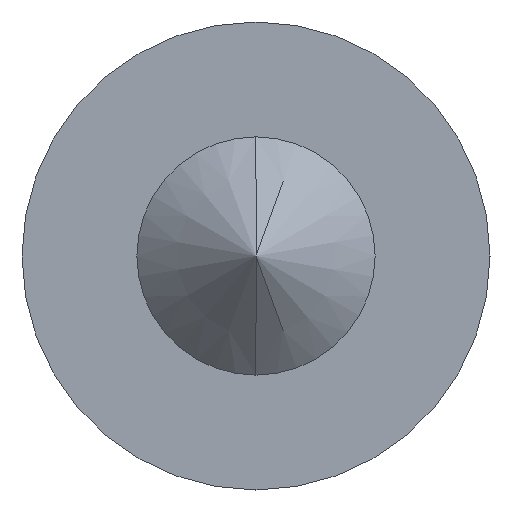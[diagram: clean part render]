
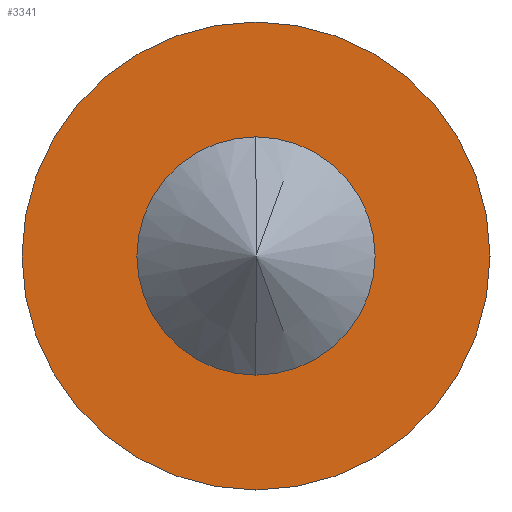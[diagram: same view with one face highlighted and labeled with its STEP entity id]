
A CAD part, left-side view. The second image highlights one B-rep face of the part: STEP entity #3341.
In plain terms, the highlighted planar face has unit normal (-1, 0, 0).
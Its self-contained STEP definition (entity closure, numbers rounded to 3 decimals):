
#348 = CIRCLE ( 'NONE', #3006, 1.1 ) ;
#520 = EDGE_LOOP ( 'NONE', ( #891, #935 ) ) ;
#562 = EDGE_LOOP ( 'NONE', ( #989, #1053 ) ) ;
#603 = DIRECTION ( 'NONE',  ( 0., 0., -1. ) ) ;
#604 = DIRECTION ( 'NONE',  ( 1., 0., 0. ) ) ;
#606 = CARTESIAN_POINT ( 'NONE',  ( 4.955, 2.75, 0. ) ) ;
#645 = PLANE ( 'NONE',  #1781 ) ;
#775 = DIRECTION ( 'NONE',  ( -1., 0., 0. ) ) ;
#829 = EDGE_CURVE ( 'NONE', #2965, #2842, #348, .T. ) ;
#891 = ORIENTED_EDGE ( 'NONE', *, *, #829, .F. ) ;
#935 = ORIENTED_EDGE ( 'NONE', *, *, #1160, .F. ) ;
#989 = ORIENTED_EDGE ( 'NONE', *, *, #1301, .T. ) ;
#1053 = ORIENTED_EDGE ( 'NONE', *, *, #1731, .T. ) ;
#1160 = EDGE_CURVE ( 'NONE', #2842, #2965, #3900, .T. ) ;
#1301 = EDGE_CURVE ( 'NONE', #2959, #2901, #3416, .T. ) ;
#1731 = EDGE_CURVE ( 'NONE', #2901, #2959, #1902, .T. ) ;
#1781 = AXIS2_PLACEMENT_3D ( 'NONE', #606, #604, #603 ) ;
#1886 = AXIS2_PLACEMENT_3D ( 'NONE', #2753, #2740, #2707 ) ;
#1902 = CIRCLE ( 'NONE', #2690, 2.75 ) ;
#2071 = DIRECTION ( 'NONE',  ( 0., 0., 1. ) ) ;
#2076 = DIRECTION ( 'NONE',  ( -1., 0., 0. ) ) ;
#2081 = CARTESIAN_POINT ( 'NONE',  ( 4.955, 0., 0. ) ) ;
#2407 = CARTESIAN_POINT ( 'NONE',  ( 4.955, 0., 1.1 ) ) ;
#2462 = CARTESIAN_POINT ( 'NONE',  ( 4.955, 0., 2.75 ) ) ;
#2690 = AXIS2_PLACEMENT_3D ( 'NONE', #3303, #775, #2942 ) ;
#2707 = DIRECTION ( 'NONE',  ( 0., 0., 1. ) ) ;
#2718 = CARTESIAN_POINT ( 'NONE',  ( 4.955, 0., -2.75 ) ) ;
#2740 = DIRECTION ( 'NONE',  ( -1., 0., 0. ) ) ;
#2753 = CARTESIAN_POINT ( 'NONE',  ( 4.955, 0., 0. ) ) ;
#2842 = VERTEX_POINT ( 'NONE', #3076 ) ;
#2901 = VERTEX_POINT ( 'NONE', #2718 ) ;
#2942 = DIRECTION ( 'NONE',  ( 0., 0., 1. ) ) ;
#2959 = VERTEX_POINT ( 'NONE', #2462 ) ;
#2965 = VERTEX_POINT ( 'NONE', #2407 ) ;
#3006 = AXIS2_PLACEMENT_3D ( 'NONE', #4551, #4546, #4527 ) ;
#3076 = CARTESIAN_POINT ( 'NONE',  ( 4.955, 0., -1.1 ) ) ;
#3303 = CARTESIAN_POINT ( 'NONE',  ( 4.955, 0., 0. ) ) ;
#3341 = ADVANCED_FACE ( 'NONE', ( #3780, #3787 ), #645, .F. ) ;
#3416 = CIRCLE ( 'NONE', #4547, 2.75 ) ;
#3780 = FACE_BOUND ( 'NONE', #520, .T. ) ;
#3787 = FACE_OUTER_BOUND ( 'NONE', #562, .T. ) ;
#3900 = CIRCLE ( 'NONE', #1886, 1.1 ) ;
#4527 = DIRECTION ( 'NONE',  ( 0., 0., 1. ) ) ;
#4546 = DIRECTION ( 'NONE',  ( -1., 0., 0. ) ) ;
#4547 = AXIS2_PLACEMENT_3D ( 'NONE', #2081, #2076, #2071 ) ;
#4551 = CARTESIAN_POINT ( 'NONE',  ( 4.955, 0., 0. ) ) ;
